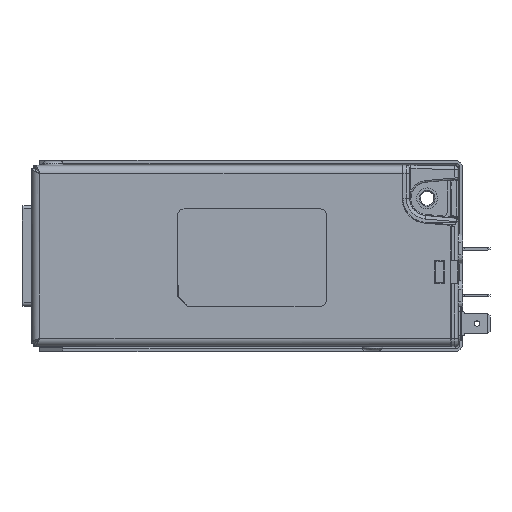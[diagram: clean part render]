
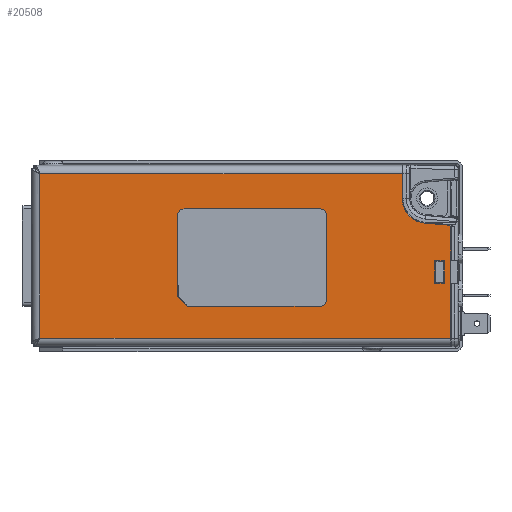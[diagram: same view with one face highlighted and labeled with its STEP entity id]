
A CAD part, top view. The second image highlights one B-rep face of the part: STEP entity #20508.
In plain terms, the highlighted planar face has unit normal (0, 0, 1).
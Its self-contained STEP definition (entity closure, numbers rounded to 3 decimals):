
#1035=FACE_BOUND('',#4054,.T.);
#1036=FACE_BOUND('',#4055,.T.);
#1726=CIRCLE('',#22419,2.);
#1727=CIRCLE('',#22422,2.);
#1728=CIRCLE('',#22425,2.);
#1745=CIRCLE('',#22536,7.5);
#2860=FACE_OUTER_BOUND('',#4053,.T.);
#4053=EDGE_LOOP('',(#17538,#17539,#17540,#17541,#17542,#17543,#17544,#17545));
#4054=EDGE_LOOP('',(#17546,#17547,#17548,#17549));
#4055=EDGE_LOOP('',(#17550,#17551,#17552,#17553,#17554,#17555,#17556,#17557,
#17558,#17559));
#5586=LINE('',#35825,#7323);
#5589=LINE('',#35831,#7326);
#5591=LINE('',#35836,#7328);
#5595=LINE('',#35845,#7332);
#5598=LINE('',#35853,#7335);
#5638=LINE('',#35939,#7375);
#5641=LINE('',#35943,#7378);
#5751=LINE('',#36208,#7488);
#5754=LINE('',#36304,#7491);
#5758=LINE('',#36392,#7495);
#5801=LINE('',#36673,#7538);
#5802=LINE('',#36681,#7539);
#5803=LINE('',#36683,#7540);
#5804=LINE('',#36686,#7541);
#5805=LINE('',#36689,#7542);
#5806=LINE('',#36691,#7543);
#5807=LINE('',#36693,#7544);
#5808=LINE('',#36694,#7545);
#7323=VECTOR('',#27790,10.);
#7326=VECTOR('',#27795,10.);
#7328=VECTOR('',#27799,10.);
#7332=VECTOR('',#27809,10.);
#7335=VECTOR('',#27818,10.);
#7375=VECTOR('',#27878,10.);
#7378=VECTOR('',#27883,10.);
#7488=VECTOR('',#28089,10.);
#7491=VECTOR('',#28096,10.);
#7495=VECTOR('',#28102,10.);
#7538=VECTOR('',#28233,10.);
#7539=VECTOR('',#28246,10.);
#7540=VECTOR('',#28247,10.);
#7541=VECTOR('',#28250,10.);
#7542=VECTOR('',#28251,10.);
#7543=VECTOR('',#28252,10.);
#7544=VECTOR('',#28253,10.);
#7545=VECTOR('',#28254,10.);
#9123=VERTEX_POINT('',#35821);
#9124=VERTEX_POINT('',#35823);
#9125=VERTEX_POINT('',#35827);
#9126=VERTEX_POINT('',#35829);
#9127=VERTEX_POINT('',#35833);
#9128=VERTEX_POINT('',#35835);
#9129=VERTEX_POINT('',#35839);
#9130=VERTEX_POINT('',#35843);
#9131=VERTEX_POINT('',#35847);
#9132=VERTEX_POINT('',#35851);
#9162=VERTEX_POINT('',#35921);
#9231=VERTEX_POINT('',#36194);
#9240=VERTEX_POINT('',#36303);
#9244=VERTEX_POINT('',#36391);
#9274=VERTEX_POINT('',#36671);
#9275=VERTEX_POINT('',#36680);
#9276=VERTEX_POINT('',#36682);
#9277=VERTEX_POINT('',#36684);
#9278=VERTEX_POINT('',#36687);
#9279=VERTEX_POINT('',#36688);
#9280=VERTEX_POINT('',#36690);
#9281=VERTEX_POINT('',#36692);
#11810=EDGE_CURVE('',#9124,#9123,#5586,.T.);
#11813=EDGE_CURVE('',#9126,#9124,#5589,.T.);
#11815=EDGE_CURVE('',#9127,#9128,#5591,.T.);
#11818=EDGE_CURVE('',#9129,#9127,#1726,.T.);
#11820=EDGE_CURVE('',#9130,#9129,#5595,.T.);
#11822=EDGE_CURVE('',#9131,#9130,#1727,.T.);
#11824=EDGE_CURVE('',#9132,#9131,#5598,.T.);
#11825=EDGE_CURVE('',#9123,#9132,#1728,.T.);
#11868=EDGE_CURVE('',#9125,#9126,#5638,.T.);
#11871=EDGE_CURVE('',#9128,#9125,#5641,.T.);
#11985=EDGE_CURVE('',#9231,#9162,#5751,.T.);
#11995=EDGE_CURVE('',#9240,#9231,#5754,.T.);
#12003=EDGE_CURVE('',#9244,#9240,#5758,.T.);
#12070=EDGE_CURVE('',#9274,#9162,#5801,.T.);
#12071=EDGE_CURVE('',#9275,#9274,#5802,.T.);
#12072=EDGE_CURVE('',#9275,#9276,#5803,.T.);
#12073=EDGE_CURVE('',#9276,#9277,#1745,.T.);
#12074=EDGE_CURVE('',#9277,#9244,#5804,.T.);
#12075=EDGE_CURVE('',#9278,#9279,#5805,.T.);
#12076=EDGE_CURVE('',#9279,#9280,#5806,.T.);
#12077=EDGE_CURVE('',#9280,#9281,#5807,.T.);
#12078=EDGE_CURVE('',#9281,#9278,#5808,.T.);
#17538=ORIENTED_EDGE('',*,*,#11995,.T.);
#17539=ORIENTED_EDGE('',*,*,#11985,.T.);
#17540=ORIENTED_EDGE('',*,*,#12070,.F.);
#17541=ORIENTED_EDGE('',*,*,#12071,.F.);
#17542=ORIENTED_EDGE('',*,*,#12072,.T.);
#17543=ORIENTED_EDGE('',*,*,#12073,.T.);
#17544=ORIENTED_EDGE('',*,*,#12074,.T.);
#17545=ORIENTED_EDGE('',*,*,#12003,.T.);
#17546=ORIENTED_EDGE('',*,*,#12075,.T.);
#17547=ORIENTED_EDGE('',*,*,#12076,.T.);
#17548=ORIENTED_EDGE('',*,*,#12077,.T.);
#17549=ORIENTED_EDGE('',*,*,#12078,.T.);
#17550=ORIENTED_EDGE('',*,*,#11815,.F.);
#17551=ORIENTED_EDGE('',*,*,#11818,.F.);
#17552=ORIENTED_EDGE('',*,*,#11820,.F.);
#17553=ORIENTED_EDGE('',*,*,#11822,.F.);
#17554=ORIENTED_EDGE('',*,*,#11824,.F.);
#17555=ORIENTED_EDGE('',*,*,#11825,.F.);
#17556=ORIENTED_EDGE('',*,*,#11810,.F.);
#17557=ORIENTED_EDGE('',*,*,#11813,.F.);
#17558=ORIENTED_EDGE('',*,*,#11868,.F.);
#17559=ORIENTED_EDGE('',*,*,#11871,.F.);
#18278=PLANE('',#22535);
#20508=ADVANCED_FACE('',(#2860,#1035,#1036),#18278,.T.);
#22419=AXIS2_PLACEMENT_3D('',#35841,#27804,#27805);
#22422=AXIS2_PLACEMENT_3D('',#35849,#27813,#27814);
#22425=AXIS2_PLACEMENT_3D('',#35855,#27821,#27822);
#22535=AXIS2_PLACEMENT_3D('',#36679,#28244,#28245);
#22536=AXIS2_PLACEMENT_3D('',#36685,#28248,#28249);
#27790=DIRECTION('',(1.,0.,0.));
#27795=DIRECTION('',(0.707,-0.707,0.));
#27799=DIRECTION('',(0.,-1.,0.));
#27804=DIRECTION('center_axis',(0.,0.,
1.));
#27805=DIRECTION('ref_axis',(-0.707,0.707,0.));
#27809=DIRECTION('',(-1.,0.,0.));
#27813=DIRECTION('center_axis',(0.,0.,
1.));
#27814=DIRECTION('ref_axis',(0.707,0.707,0.));
#27818=DIRECTION('',(0.,1.,0.));
#27821=DIRECTION('center_axis',(0.,0.,
1.));
#27822=DIRECTION('ref_axis',(0.707,-0.707,0.));
#27878=DIRECTION('',(0.707,-0.707,0.));
#27883=DIRECTION('',(0.,-1.,0.));
#28089=DIRECTION('',(1.,0.,0.));
#28096=DIRECTION('',(0.,-1.,0.));
#28102=DIRECTION('',(-1.,0.,0.));
#28233=DIRECTION('',(0.,-1.,0.));
#28244=DIRECTION('center_axis',(0.,0.,
1.));
#28245=DIRECTION('ref_axis',(0.,-1.,0.));
#28246=DIRECTION('',(0.676,-0.737,0.));
#28247=DIRECTION('',(-0.996,0.087,0.));
#28248=DIRECTION('center_axis',(0.,0.,
-1.));
#28249=DIRECTION('ref_axis',(-1.,0.,0.));
#28250=DIRECTION('',(0.,1.,0.));
#28251=DIRECTION('',(-1.,0.,0.));
#28252=DIRECTION('',(0.,1.,0.));
#28253=DIRECTION('',(1.,0.,0.));
#28254=DIRECTION('',(0.,-1.,0.));
#35821=CARTESIAN_POINT('',(3.9,-15.525,34.9));
#35823=CARTESIAN_POINT('',(-37.1,-15.525,34.9));
#35825=CARTESIAN_POINT('',(-40.1,-15.525,34.9));
#35827=CARTESIAN_POINT('',(-40.1,-12.525,34.9));
#35829=CARTESIAN_POINT('',(-37.625,-15.,34.9));
#35831=CARTESIAN_POINT('',(-36.6,-16.025,34.9));
#35833=CARTESIAN_POINT('',(-40.1,12.475,34.9));
#35835=CARTESIAN_POINT('',(-40.1,-9.025,34.9));
#35836=CARTESIAN_POINT('',(-40.1,14.475,34.9));
#35839=CARTESIAN_POINT('',(-38.1,14.475,34.9));
#35841=CARTESIAN_POINT('Origin',(-38.1,12.475,34.9));
#35843=CARTESIAN_POINT('',(3.9,14.475,34.9));
#35845=CARTESIAN_POINT('',(5.9,14.475,34.9));
#35847=CARTESIAN_POINT('',(5.9,12.475,34.9));
#35849=CARTESIAN_POINT('Origin',(3.9,12.475,34.9));
#35851=CARTESIAN_POINT('',(5.9,-13.525,34.9));
#35853=CARTESIAN_POINT('',(5.9,-15.525,34.9));
#35855=CARTESIAN_POINT('Origin',(3.9,-13.525,34.9));
#35921=CARTESIAN_POINT('',(44.2,-25.4,34.9));
#35939=CARTESIAN_POINT('',(-36.6,-16.025,34.9));
#35943=CARTESIAN_POINT('',(-40.1,14.475,34.9));
#36194=CARTESIAN_POINT('',(-82.6,-25.4,34.9));
#36208=CARTESIAN_POINT('',(-52.775,-25.4,34.9));
#36303=CARTESIAN_POINT('',(-82.6,25.4,34.9));
#36304=CARTESIAN_POINT('',(-82.6,-12.7,34.9));
#36391=CARTESIAN_POINT('',(29.2,25.4,34.9));
#36392=CARTESIAN_POINT('',(11.875,25.4,34.9));
#36671=CARTESIAN_POINT('',(44.2,8.915,34.9));
#36673=CARTESIAN_POINT('',(44.2,27.9,34.9));
#36679=CARTESIAN_POINT('Origin',(-20.45,0.,
34.9));
#36680=CARTESIAN_POINT('',(43.702,9.459,34.9));
#36681=CARTESIAN_POINT('',(31.542,22.729,34.9));
#36682=CARTESIAN_POINT('',(36.046,10.129,34.9));
#36683=CARTESIAN_POINT('',(12.529,12.186,34.9));
#36684=CARTESIAN_POINT('',(29.2,17.6,34.9));
#36685=CARTESIAN_POINT('Origin',(36.7,17.6,34.9));
#36686=CARTESIAN_POINT('',(29.2,8.8,34.9));
#36687=CARTESIAN_POINT('',(42.2,-8.5,34.9));
#36688=CARTESIAN_POINT('',(39.2,-8.5,34.9));
#36689=CARTESIAN_POINT('',(10.875,-8.5,34.9));
#36690=CARTESIAN_POINT('',(39.2,-1.5,34.9));
#36691=CARTESIAN_POINT('',(39.2,-4.25,34.9));
#36692=CARTESIAN_POINT('',(42.2,-1.5,34.9));
#36693=CARTESIAN_POINT('',(9.375,-1.5,34.9));
#36694=CARTESIAN_POINT('',(42.2,-0.75,34.9));
